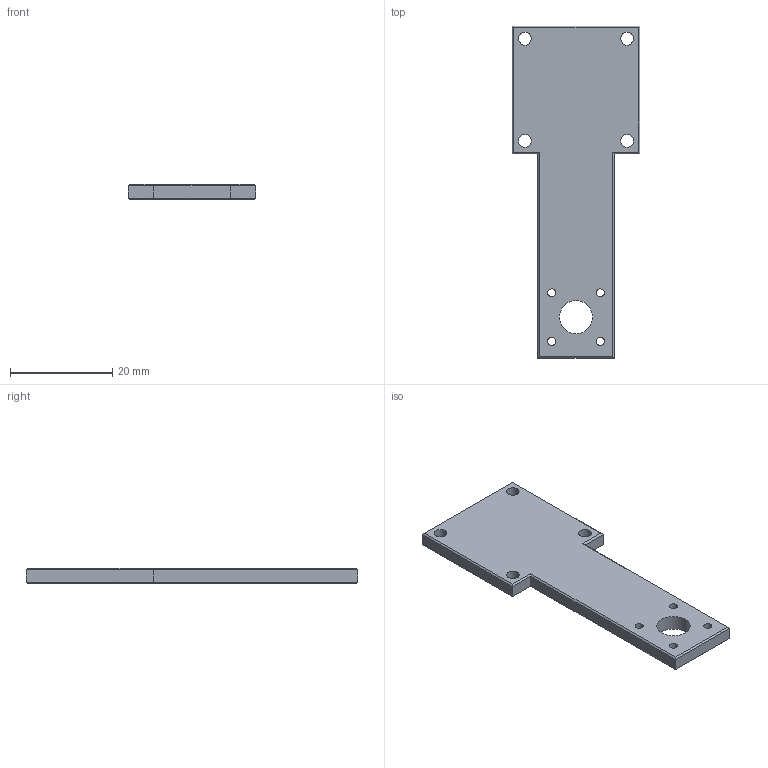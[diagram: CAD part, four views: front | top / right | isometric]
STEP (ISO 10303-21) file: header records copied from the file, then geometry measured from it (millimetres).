
FILE_DESCRIPTION (( 'STEP AP214' ), '1' );
FILE_NAME ('錨璃22.STEP', '2026-10-12T05:30:37', ( '' ), ( '' ), 'SwSTEP 2.0', 'SolidWorks 2024', '' );
FILE_SCHEMA (( 'AUTOMOTIVE_DESIGN' ));
Length unit declared in the file: millimetre
Products named in the file (1): 零件22
Bounding box: 25 x 65 x 3 mm (x, y, z)
Volume: 3476.3 mm3; surface area: 3020.5 mm2
Topology: 1 solids, 1 shells, 44 faces, 110 edges, 68 vertices
Faces by surface type: plane 26, cylinder 18
Entity records: 1361 total; most frequent: DIRECTION 236, CARTESIAN_POINT 223, ORIENTED_EDGE 220, EDGE_CURVE 110, AXIS2_PLACEMENT_3D 81, LINE 74, VECTOR 74, VERTEX_POINT 68
